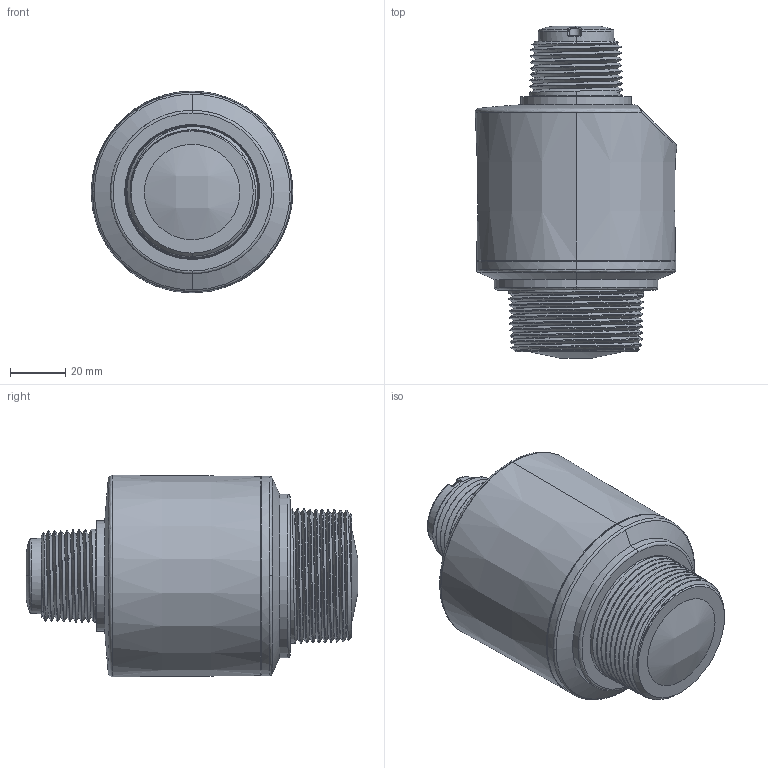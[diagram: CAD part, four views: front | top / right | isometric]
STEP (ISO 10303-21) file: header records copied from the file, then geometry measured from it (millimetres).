
FILE_DESCRIPTION (( 'STEP AP214' ), '1' );
FILE_NAME ('LR80-0000.STEP', '2023-07-27T19:23:19', ( '' ), ( '' ), 'SwSTEP 2.0', 'SolidWorks 2013', '' );
FILE_SCHEMA (( 'AUTOMOTIVE_DESIGN' ));
Length unit declared in the file: inch
Products named in the file (4): Liquid Tight; Housing (Vertical Exit); AntennaX1; LR80-0000
Assembly tree (3 placements, depth 2):
  LR80-0000
    AntennaX1
    Housing (Vertical Exit)
    Liquid Tight
Bounding box: 72.83 x 120 x 72.94 mm (x, y, z)
Volume: 89967.5 mm3; surface area: 57706.2 mm2
Topology: 3 solids, 3 shells, 366 faces, 977 edges, 635 vertices
Faces by surface type: plane 142, bspline 116, cone 60, cylinder 44, torus 4
Entity records: 25610 total; most frequent: CARTESIAN_POINT 17339, ORIENTED_EDGE 1936, DIRECTION 1315, EDGE_CURVE 968, VERTEX_POINT 633, AXIS2_PLACEMENT_3D 469, EDGE_LOOP 395, VECTOR 377
